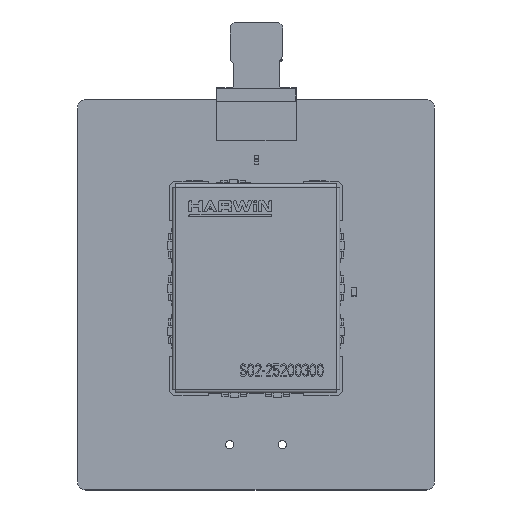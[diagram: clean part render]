
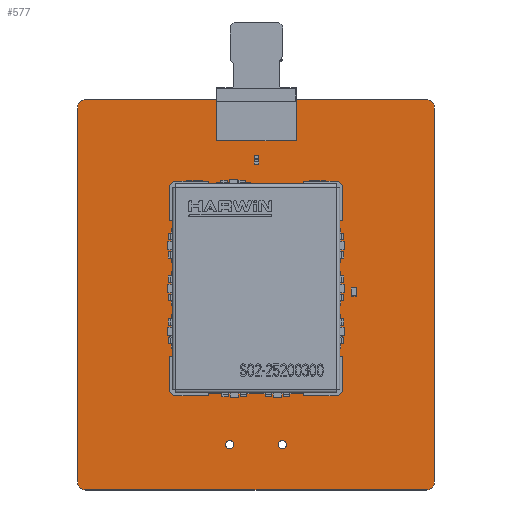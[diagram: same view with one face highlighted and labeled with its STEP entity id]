
A CAD part, top view. The second image highlights one B-rep face of the part: STEP entity #577.
In plain terms, the highlighted planar face has unit normal (0, 0, 1).
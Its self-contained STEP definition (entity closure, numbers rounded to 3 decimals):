
#240 = VERTEX_POINT('',#241);
#241 = CARTESIAN_POINT('',(0.,1.,1.016));
#247 = EDGE_CURVE('',#240,#248,#250,.T.);
#248 = VERTEX_POINT('',#249);
#249 = CARTESIAN_POINT('',(1.,0.,1.016));
#250 = CIRCLE('',#251,1.);
#251 = AXIS2_PLACEMENT_3D('',#252,#253,#254);
#252 = CARTESIAN_POINT('',(1.,1.,1.016));
#253 = DIRECTION('',(0.,0.,1.));
#254 = DIRECTION('',(-1.,0.,0.));
#280 = EDGE_CURVE('',#248,#281,#283,.T.);
#281 = VERTEX_POINT('',#282);
#282 = CARTESIAN_POINT('',(42.,0.,1.016));
#283 = LINE('',#284,#285);
#284 = CARTESIAN_POINT('',(1.,0.,1.016));
#285 = VECTOR('',#286,1.);
#286 = DIRECTION('',(1.,0.,0.));
#311 = EDGE_CURVE('',#281,#312,#314,.T.);
#312 = VERTEX_POINT('',#313);
#313 = CARTESIAN_POINT('',(43.,1.,1.016));
#314 = CIRCLE('',#315,1.);
#315 = AXIS2_PLACEMENT_3D('',#316,#317,#318);
#316 = CARTESIAN_POINT('',(42.,1.,1.016));
#317 = DIRECTION('',(0.,0.,1.));
#318 = DIRECTION('',(0.,-1.,0.));
#344 = EDGE_CURVE('',#312,#345,#347,.T.);
#345 = VERTEX_POINT('',#346);
#346 = CARTESIAN_POINT('',(43.,46.,1.016));
#347 = LINE('',#348,#349);
#348 = CARTESIAN_POINT('',(43.,1.,1.016));
#349 = VECTOR('',#350,1.);
#350 = DIRECTION('',(0.,1.,0.));
#375 = EDGE_CURVE('',#345,#376,#378,.T.);
#376 = VERTEX_POINT('',#377);
#377 = CARTESIAN_POINT('',(42.,47.,1.016));
#378 = CIRCLE('',#379,1.);
#379 = AXIS2_PLACEMENT_3D('',#380,#381,#382);
#380 = CARTESIAN_POINT('',(42.,46.,1.016));
#381 = DIRECTION('',(0.,0.,1.));
#382 = DIRECTION('',(1.,0.,-0.));
#408 = EDGE_CURVE('',#376,#409,#411,.T.);
#409 = VERTEX_POINT('',#410);
#410 = CARTESIAN_POINT('',(1.,47.,1.016));
#411 = LINE('',#412,#413);
#412 = CARTESIAN_POINT('',(42.,47.,1.016));
#413 = VECTOR('',#414,1.);
#414 = DIRECTION('',(-1.,0.,0.));
#439 = EDGE_CURVE('',#409,#440,#442,.T.);
#440 = VERTEX_POINT('',#441);
#441 = CARTESIAN_POINT('',(0.,46.,1.016));
#442 = CIRCLE('',#443,1.);
#443 = AXIS2_PLACEMENT_3D('',#444,#445,#446);
#444 = CARTESIAN_POINT('',(1.,46.,1.016));
#445 = DIRECTION('',(0.,0.,1.));
#446 = DIRECTION('',(0.,1.,0.));
#472 = EDGE_CURVE('',#440,#240,#473,.T.);
#473 = LINE('',#474,#475);
#474 = CARTESIAN_POINT('',(0.,46.,1.016));
#475 = VECTOR('',#476,1.);
#476 = DIRECTION('',(0.,-1.,0.));
#496 = VERTEX_POINT('',#497);
#497 = CARTESIAN_POINT('',(18.825,5.465,1.016));
#503 = EDGE_CURVE('',#496,#496,#504,.T.);
#504 = CIRCLE('',#505,0.5);
#505 = AXIS2_PLACEMENT_3D('',#506,#507,#508);
#506 = CARTESIAN_POINT('',(18.325,5.465,1.016));
#507 = DIRECTION('',(0.,0.,1.));
#508 = DIRECTION('',(1.,0.,-0.));
#529 = VERTEX_POINT('',#530);
#530 = CARTESIAN_POINT('',(25.175,5.465,1.016));
#536 = EDGE_CURVE('',#529,#529,#537,.T.);
#537 = CIRCLE('',#538,0.5);
#538 = AXIS2_PLACEMENT_3D('',#539,#540,#541);
#539 = CARTESIAN_POINT('',(24.675,5.465,1.016));
#540 = DIRECTION('',(0.,0.,1.));
#541 = DIRECTION('',(1.,0.,-0.));
#577 = ADVANCED_FACE('',(#578,#588,#591),#594,.T.);
#578 = FACE_BOUND('',#579,.T.);
#579 = EDGE_LOOP('',(#580,#581,#582,#583,#584,#585,#586,#587));
#580 = ORIENTED_EDGE('',*,*,#247,.T.);
#581 = ORIENTED_EDGE('',*,*,#280,.T.);
#582 = ORIENTED_EDGE('',*,*,#311,.T.);
#583 = ORIENTED_EDGE('',*,*,#344,.T.);
#584 = ORIENTED_EDGE('',*,*,#375,.T.);
#585 = ORIENTED_EDGE('',*,*,#408,.T.);
#586 = ORIENTED_EDGE('',*,*,#439,.T.);
#587 = ORIENTED_EDGE('',*,*,#472,.T.);
#588 = FACE_BOUND('',#589,.T.);
#589 = EDGE_LOOP('',(#590));
#590 = ORIENTED_EDGE('',*,*,#503,.F.);
#591 = FACE_BOUND('',#592,.T.);
#592 = EDGE_LOOP('',(#593));
#593 = ORIENTED_EDGE('',*,*,#536,.F.);
#594 = PLANE('',#595);
#595 = AXIS2_PLACEMENT_3D('',#596,#597,#598);
#596 = CARTESIAN_POINT('',(21.5,23.5,1.016));
#597 = DIRECTION('',(0.,0.,1.));
#598 = DIRECTION('',(1.,0.,-0.));
